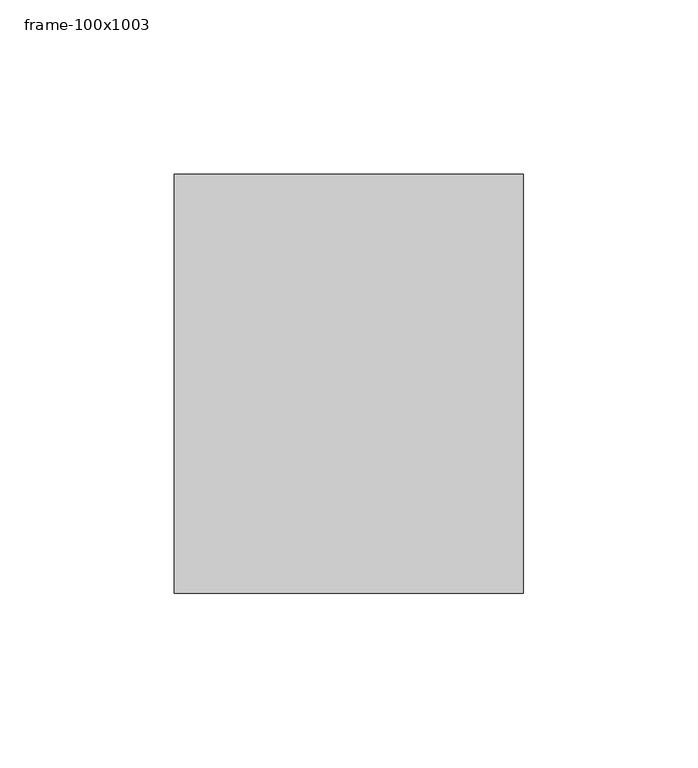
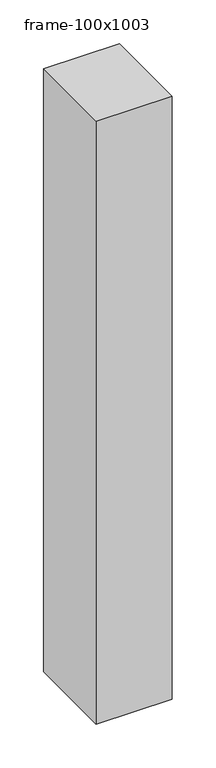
"""IFC4 building model written with IfcOpenShell, lengths in millimetres: member geometry, 長方形マリオン : frame-100x1003."""

from ifc_helpers import new_model, si_unit, frame, origin, place, context, project, spatial, polyline, outline, extrude, source, transform, mapped, element, save


def frame_100x1003_4de115ea(model_context):
    return source(origin(), model_context, "Body", "SweptSolid", [
        extrude(outline(polyline([(0.0, 60.0), (0.0, -60.0), (-100.0, -60.0), (-100.0, 60.0), (0.0, 60.0)])), frame((0.0, 0.0, -840.0), z_axis=(0.0, 0.0, 1.0), x_axis=(1.0, 0.0, 0.0)), (0.0, 0.0, 1.0), 840.0),
    ])


if __name__ == "__main__":
    model = new_model("IFC4")
    model_context = context("Model", 3, world=origin())
    ifc_project = project(units=[si_unit("LENGTHUNIT", "METRE", prefix="MILLI")], contexts=[model_context])
    site = spatial("IfcSite", under=ifc_project)
    building = spatial("IfcBuilding", under=site)
    placement = place(None, origin())
    frame_100x1003_shape = frame_100x1003_4de115ea(model_context)
    element("IfcMember", 1, ObjectType="長方形マリオン : frame-100x1003", at=placement, inside=building, context=model_context, shape_type="MappedRepresentation", body=[
        mapped(frame_100x1003_shape, transform((0.0, 0.0, 0.0), x_axis=(1.0, 0.0, 0.0), y_axis=(0.0, 1.0, 0.0), z_axis=(0.0, 0.0, 1.0))),
    ])
    save(model, "model.ifc")
